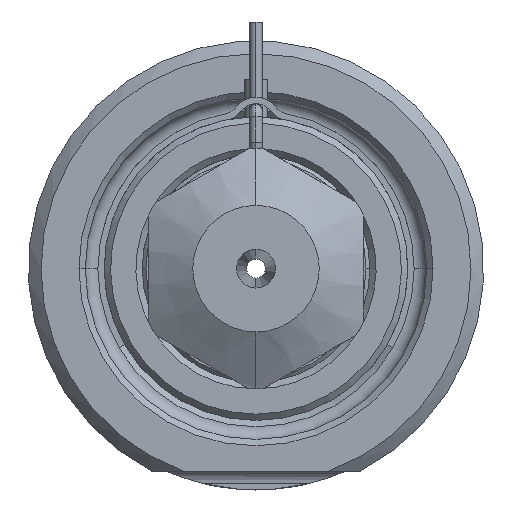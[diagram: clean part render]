
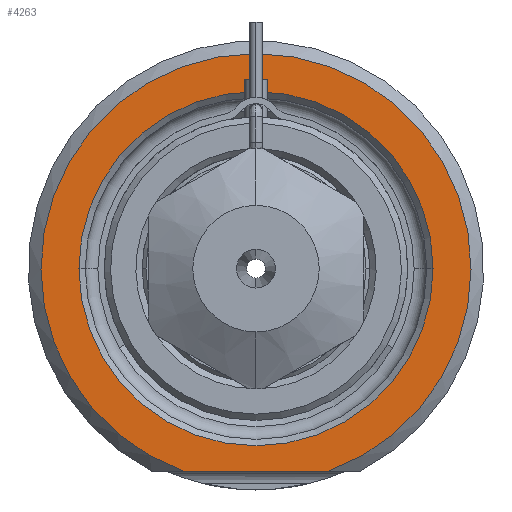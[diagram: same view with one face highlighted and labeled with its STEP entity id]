
A CAD part, front view. The second image highlights one B-rep face of the part: STEP entity #4263.
In plain terms, the highlighted planar face has unit normal (0, -1, 0).
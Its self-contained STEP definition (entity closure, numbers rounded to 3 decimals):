
#1340=CARTESIAN_POINT('',(0.,0.,0.));
#1341=DIRECTION('',(0.,-1.,0.));
#1342=DIRECTION('',(0.338,0.,-0.941));
#1343=AXIS2_PLACEMENT_3D('',#1340,#1341,#1342);
#1364=DIRECTION('',(1.,0.,0.));
#1365=VECTOR('',#1364,11.489);
#1366=CARTESIAN_POINT('',(-5.745,0.,-16.));
#1367=LINE('',#1366,#1365);
#1368=CARTESIAN_POINT('',(0.,0.,0.));
#1369=DIRECTION('',(0.,1.,0.));
#1370=DIRECTION('',(-1.,0.,0.));
#1371=AXIS2_PLACEMENT_3D('',#1368,#1369,#1370);
#1373=CARTESIAN_POINT('',(0.,0.,0.));
#1374=DIRECTION('',(0.,1.,0.));
#1375=DIRECTION('',(1.,0.,0.));
#1376=AXIS2_PLACEMENT_3D('',#1373,#1374,#1375);
#2265=CARTESIAN_POINT('',(-14.,0.,0.));
#2266=CARTESIAN_POINT('',(14.,0.,0.));
#2267=VERTEX_POINT('',#2265);
#2268=VERTEX_POINT('',#2266);
#2305=CARTESIAN_POINT('',(-5.745,0.,-16.));
#2306=CARTESIAN_POINT('',(5.745,0.,-16.));
#2307=VERTEX_POINT('',#2305);
#2308=VERTEX_POINT('',#2306);
#4248=CARTESIAN_POINT('',(0.,0.,0.));
#4249=DIRECTION('',(0.,-1.,0.));
#4250=DIRECTION('',(1.,0.,0.));
#4251=AXIS2_PLACEMENT_3D('',#4248,#4249,#4250);
#4252=PLANE('',#4251);
#4253=ORIENTED_EDGE('',*,*,#4180,.F.);
#4254=ORIENTED_EDGE('',*,*,#4240,.F.);
#4255=EDGE_LOOP('',(#4253,#4254));
#4256=FACE_OUTER_BOUND('',#4255,.F.);
#4258=ORIENTED_EDGE('',*,*,#4257,.F.);
#4260=ORIENTED_EDGE('',*,*,#4259,.F.);
#4261=EDGE_LOOP('',(#4258,#4260));
#4262=FACE_BOUND('',#4261,.F.);
#4263=ADVANCED_FACE('',(#4256,#4262),#4252,.T.);
#1344=CIRCLE('',#1343,17.);
#1372=CIRCLE('',#1371,14.);
#1377=CIRCLE('',#1376,14.);
#4180=EDGE_CURVE('',#2307,#2308,#1367,.T.);
#4240=EDGE_CURVE('',#2308,#2307,#1344,.T.);
#4257=EDGE_CURVE('',#2267,#2268,#1372,.T.);
#4259=EDGE_CURVE('',#2268,#2267,#1377,.T.);
